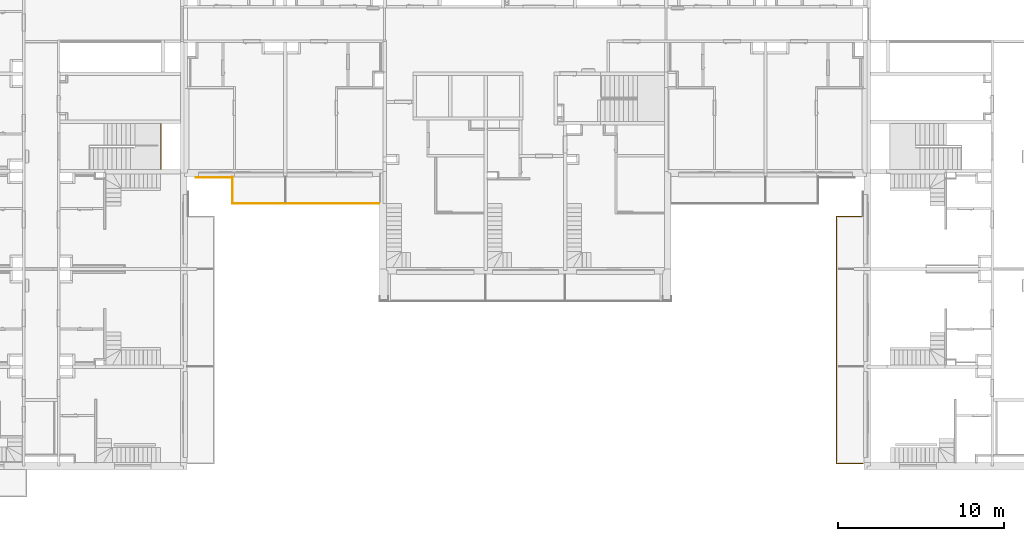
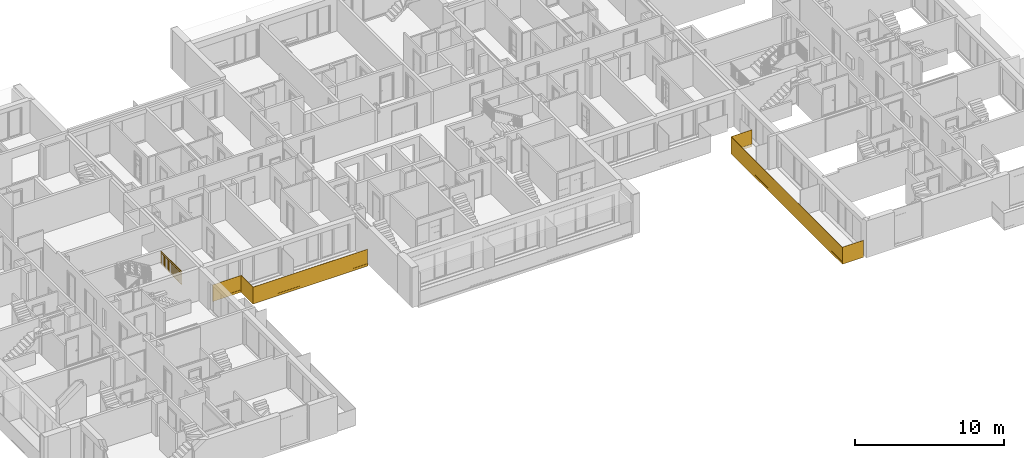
# One storey, part 6 of 61: 4 railings.
"""IFC2X3 building model written with IfcOpenShell, lengths in millimetres."""

from ifc_helpers import new_model, entity, si_unit, converted_unit, derived_unit, money_unit, direction, frame, origin_with_axes, place, context, subcontext, project, spatial, faceted_brep, material, material_list, type_object, element, save


model = new_model("IFC2X3")

# Units and contexts
model_context = context("Model", 3, precision=0.01, world=origin_with_axes(), true_north=direction((0.34421633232, 0.938890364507)))
body_context = subcontext(model_context, "Body", "Model", "MODEL_VIEW")
ifc_project = project(units=[si_unit("LENGTHUNIT", "METRE", prefix="MILLI"), si_unit("AREAUNIT", "SQUARE_METRE"), si_unit("VOLUMEUNIT", "CUBIC_METRE"), converted_unit("PLANEANGLEUNIT", "DEGREE", entity("IfcPlaneAngleMeasure", 0.0174532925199), si_unit("PLANEANGLEUNIT", "RADIAN"), dimensions=[0, 0, 0, 0, 0, 0, 0]), si_unit("SOLIDANGLEUNIT", "STERADIAN"), money_unit("USD"), converted_unit("TIMEUNIT", "Year", entity("IfcTimeMeasure", 31556926.0), si_unit("TIMEUNIT", "SECOND"), dimensions=[0, 0, 1, 0, 0, 0, 0]), si_unit("MASSUNIT", "GRAM", prefix="KILO"), si_unit("THERMODYNAMICTEMPERATUREUNIT", "DEGREE_CELSIUS"), si_unit("LUMINOUSINTENSITYUNIT", "LUMEN"), si_unit("ENERGYUNIT", "JOULE", prefix="MEGA"), derived_unit("THERMALCONDUCTANCEUNIT", [(si_unit("POWERUNIT", "WATT"), 1), (si_unit("LENGTHUNIT", "METRE"), -1), (si_unit("THERMODYNAMICTEMPERATUREUNIT", "KELVIN"), -1)]), derived_unit("SPECIFICHEATCAPACITYUNIT", [(si_unit("ENERGYUNIT", "JOULE"), 1), (si_unit("MASSUNIT", "GRAM", prefix="KILO"), -1), (si_unit("THERMODYNAMICTEMPERATUREUNIT", "KELVIN"), -1)]), derived_unit("MASSDENSITYUNIT", [(si_unit("MASSUNIT", "GRAM", prefix="KILO"), 1), (si_unit("VOLUMEUNIT", "CUBIC_METRE"), -1)])], contexts=[model_context])

# Site, building, storey
site_placement = place(None, origin_with_axes())
site = spatial("IfcSite", under=ifc_project, at=site_placement, Name="USTRONIE MORSKIE", CompositionType="ELEMENT")
building_placement = place(site_placement, origin_with_axes())
building = spatial("IfcBuilding", under=site, at=building_placement, Name="Budynek", CompositionType="ELEMENT")
storey_placement = place(building_placement, frame((0.0, 0.0, 13000.0), z_axis=(0.0, 0.0, 1.0), x_axis=(1.0, 0.0, 0.0)))
storey = spatial("IfcBuildingStorey", under=building, at=storey_placement, Name="PIĘTRO 4", CompositionType="ELEMENT", Elevation=13000.0)

# Railings
ifc_material_1 = material(Name="Szkło struktualne")
ifc_material_2 = material(Name="Profile aluminiowe")
ifc_material_list_1 = material_list([ifc_material_1, ifc_material_2])
railing_type = type_object("IfcRailingType", Name="Typ balustrady", PredefinedType="NOTDEFINED")
railing_1_placement = place(storey_placement, frame((370177.928052, 726591.199036, 0.0), z_axis=(0.0, 0.0, 1.0), x_axis=(-1.0, 0.0, 0.0)))
element("IfcRailing", 1, at=railing_1_placement, inside=storey, type_object=railing_type, material=ifc_material_list_1, Name="BL1", PredefinedType="NOTDEFINED", context=body_context, shape_type="Brep", body=[
    faceted_brep([(2259.98778246, 59.9999999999, -300.0), (80.0, 59.9999999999, -300.0), (80.0, 59.9999999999, 1070.0), (2259.98778246, 59.9999999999, 1070.0), (80.0, 40.0, -300.0), (2259.98778246, 40.0, -300.0), (80.0, 40.0, 1070.0), (2259.98778246, 40.0, 1070.0)], [[[0, 1, 2, 3]], [[4, 1, 0, 5]], [[6, 2, 1, 4]], [[3, 2, 6, 7]], [[0, 3, 7, 5]], [[6, 4, 5, 7]]]),
    faceted_brep([(80.0, 35.0, -305.0), (2259.98778246, 35.0, -305.0), (2259.98778246, 35.0, -105.0), (80.0, 35.0, -105.0), (80.0, 64.9999999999, -305.0), (2259.98778246, 64.9999999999, -305.0), (2259.98778246, 64.9999999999, -105.0), (2259.98778246, 59.9999999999, -105.0), (2259.98778246, 59.9999999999, -300.0), (2259.98778246, 40.0, -300.0), (2259.98778246, 40.0, -105.0), (80.0, 40.0, -105.0), (80.0, 59.9999999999, -300.0), (80.0, 59.9999999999, -105.0), (80.0, 64.9999999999, -105.0), (80.0, 40.0, -300.0)], [[[0, 1, 2, 3]], [[4, 5, 1, 0]], [[5, 6, 7, 8, 9, 10, 2, 1]], [[3, 2, 10, 11]], [[12, 13, 14, 4, 0, 3, 11, 15]], [[5, 4, 14, 6]], [[14, 13, 7, 6]], [[13, 12, 8, 7]], [[12, 15, 9, 8]], [[9, 15, 11, 10]]]),
])
ifc_material_list_2 = material_list([ifc_material_1, ifc_material_2, ifc_material_1, ifc_material_2])
railing_2_placement = place(storey_placement, frame((379016.201289, 725001.198359, 0.0), z_axis=(0.0, 0.0, 1.0), x_axis=(1.0, 0.0, 0.0)))
element("IfcRailing", 2, at=railing_2_placement, inside=storey, type_object=railing_type, material=ifc_material_list_2, Name="BL1", PredefinedType="NOTDEFINED", context=body_context, shape_type="Brep", body=[
    faceted_brep([(-29.9999996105, -59.9999997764, -300.00000039), (-29.9999996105, -59.9999997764, 1069.99999972), (-8898.26101931, -59.9999997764, 1069.99999972), (-8898.26101931, -59.9999997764, -300.00000039), (-29.9999996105, -40.0000002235, 1069.99999972), (-29.9999996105, -40.0000002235, -300.00000039), (-8878.26101976, -40.0000002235, 1069.99999972), (-8878.26101976, -40.0000002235, -300.00000039)], [[[0, 1, 2, 3]], [[4, 1, 0, 5]], [[2, 1, 4, 6]], [[3, 2, 6, 7]], [[5, 0, 3, 7]], [[6, 4, 5, 7]]]),
    faceted_brep([(-8888.26101984, -35.0, -105.0), (-30.0, -35.0, -105.0), (-30.0, -35.0, -305.0), (-8888.26101984, -35.0, -305.0), (-8888.26101984, -40.0, -105.0), (-30.0, -40.0, -105.0), (-30.0, -40.0, -300.0), (-30.0, -59.9999999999, -300.0), (-30.0, -59.9999999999, -105.0), (-30.0, -64.9999999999, -105.0), (-30.0, -64.9999999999, -305.0), (-8888.26101984, -64.9999999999, -305.0), (-8888.26101984, -64.9999999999, -105.0), (-8888.26101984, -59.9999999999, -105.0), (-8888.26101984, -59.9999999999, -300.0), (-8888.26101984, -40.0, -300.0)], [[[0, 1, 2, 3]], [[1, 0, 4, 5]], [[6, 7, 8, 9, 10, 2, 1, 5]], [[10, 11, 3, 2]], [[11, 12, 13, 14, 15, 4, 0, 3]], [[15, 6, 5, 4]], [[7, 6, 15, 14]], [[8, 7, 14, 13]], [[9, 8, 13, 12]], [[11, 10, 9, 12]]]),
    faceted_brep([(-8898.26101961, -60.0000001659, -300.00000039), (-8898.26101961, -60.0000001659, 1069.99999972), (-8898.26101961, 1570.00067773, 1069.99999972), (-8898.26101961, 1570.00067773, -300.00000039), (-8878.26102006, -40.000000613, 1069.99999972), (-8878.26102006, -40.000000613, -300.00000039), (-8878.26102006, 1570.00067773, 1069.99999972), (-8878.26102006, 1570.00067773, -300.00000039)], [[[0, 1, 2, 3]], [[4, 1, 0, 5]], [[2, 1, 4, 6]], [[3, 2, 6, 7]], [[5, 0, 3, 7]], [[6, 4, 5, 7]]]),
    faceted_brep([(-8873.26101984, 1570.00067759, -105.0), (-8873.26101984, -50.0, -105.0), (-8873.26101984, -50.0, -305.0), (-8873.26101984, 1570.00067759, -305.0), (-8878.26101984, 1570.00067759, -105.0), (-8878.26101984, -50.0, -105.0), (-8878.26101984, -50.0, -300.0), (-8898.26101984, -50.0, -300.0), (-8898.26101984, -50.0, -105.0), (-8903.26101984, -50.0, -105.0), (-8903.26101984, -50.0, -305.0), (-8903.26101984, 1570.00067759, -305.0), (-8903.26101984, 1570.00067759, -105.0), (-8898.26101984, 1570.00067759, -105.0), (-8898.26101984, 1570.00067759, -300.0), (-8878.26101984, 1570.00067759, -300.0)], [[[0, 1, 2, 3]], [[1, 0, 4, 5]], [[6, 7, 8, 9, 10, 2, 1, 5]], [[10, 11, 3, 2]], [[11, 12, 13, 14, 15, 4, 0, 3]], [[15, 6, 5, 4]], [[7, 6, 15, 14]], [[8, 7, 14, 13]], [[9, 8, 13, 12]], [[11, 10, 9, 12]]]),
])
ifc_material_list_3 = material_list([ifc_material_1, ifc_material_2, ifc_material_1, ifc_material_2, ifc_material_1, ifc_material_2])
railing_3_placement = place(storey_placement, frame((408267.914768, 724111.198359, 0.0), z_axis=(0.0, 0.0, 1.0), x_axis=(-1.0, 0.0, 0.0)))
element("IfcRailing", 3, at=railing_3_placement, inside=storey, type_object=railing_type, material=ifc_material_list_3, Name="BL1", PredefinedType="NOTDEFINED", context=body_context, shape_type="Brep", body=[
    faceted_brep([(29.9999996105, -40.0000002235, -300.00000039), (29.9999996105, -40.0000002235, 1069.99999972), (1639.99901128, -40.0000002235, 1069.99999972), (1639.99901128, -40.0000002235, -300.00000039), (29.9999996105, -59.9999997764, 1069.99999972), (29.9999996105, -59.9999997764, -300.00000039), (1659.99896906, -59.9999997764, 1069.99999972), (1659.99896906, -59.9999997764, -300.00000039)], [[[0, 1, 2, 3]], [[4, 1, 0, 5]], [[2, 1, 4, 6]], [[3, 2, 6, 7]], [[5, 0, 3, 7]], [[6, 4, 5, 7]]]),
    faceted_brep([(1649.99899054, -64.9999999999, -105.0), (30.0, -64.9999999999, -105.0), (30.0, -64.9999999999, -305.0), (1649.99899054, -64.9999999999, -305.0), (1649.99899054, -59.9999999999, -105.0), (30.0, -59.9999999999, -105.0), (30.0, -59.9999999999, -300.0), (30.0, -40.0, -300.0), (30.0, -40.0, -105.0), (30.0, -35.0, -105.0), (30.0, -35.0, -305.0), (1649.99899054, -35.0, -305.0), (1649.99899054, -35.0, -105.0), (1649.99899054, -40.0, -105.0), (1649.99899054, -40.0, -300.0), (1649.99899054, -59.9999999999, -300.0)], [[[0, 1, 2, 3]], [[1, 0, 4, 5]], [[6, 7, 8, 9, 10, 2, 1, 5]], [[10, 11, 3, 2]], [[11, 12, 13, 14, 15, 4, 0, 3]], [[15, 6, 5, 4]], [[7, 6, 15, 14]], [[8, 7, 14, 13]], [[9, 8, 13, 12]], [[11, 10, 9, 12]]]),
    faceted_brep([(1639.99901165, -40.000000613, -300.00000039), (1639.99901165, -40.000000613, 1069.99999972), (1640.03011585, 14849.9993229, 1069.99999972), (1640.03011585, 14849.9993229, -300.00000039), (1659.99896943, -60.0000001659, 1069.99999972), (1659.99896943, -60.0000001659, -300.00000039), (1660.03015719, 14869.9993224, 1069.99999972), (1660.03015719, 14869.9993224, -300.00000039)], [[[0, 1, 2, 3]], [[4, 1, 0, 5]], [[2, 1, 4, 6]], [[3, 2, 6, 7]], [[5, 0, 3, 7]], [[6, 4, 5, 7]]]),
    faceted_brep([(1665.03013652, 14859.9992911, -105.0), (1664.99899054, -50.000031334, -105.0), (1664.99899054, -50.000031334, -305.0), (1665.03013652, 14859.9992911, -305.0), (1660.03013652, 14859.9993015, -105.0), (1659.99899054, -50.0000208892, -105.0), (1659.99899054, -50.0000208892, -300.0), (1639.99899054, -49.9999791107, -300.0), (1639.99899054, -49.9999791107, -105.0), (1634.99899054, -49.9999686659, -105.0), (1634.99899054, -49.9999686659, -305.0), (1635.03013652, 14859.9993537, -305.0), (1635.03013652, 14859.9993537, -105.0), (1640.03013652, 14859.9993433, -105.0), (1640.03013652, 14859.9993433, -300.0), (1660.03013652, 14859.9993015, -300.0)], [[[0, 1, 2, 3]], [[1, 0, 4, 5]], [[6, 7, 8, 9, 10, 2, 1, 5]], [[10, 11, 3, 2]], [[11, 12, 13, 14, 15, 4, 0, 3]], [[15, 6, 5, 4]], [[7, 6, 15, 14]], [[8, 7, 14, 13]], [[9, 8, 13, 12]], [[11, 10, 9, 12]]]),
    faceted_brep([(1640.03011624, 14849.9993226, -300.00000039), (1640.03011624, 14849.9993226, 1069.99999972), (30.0628355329, 14849.9993226, 1069.99999972), (30.0628355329, 14849.9993226, -300.00000039), (1660.03015757, 14869.9993222, 1069.99999972), (1660.03015757, 14869.9993222, -300.00000039), (30.0628355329, 14869.9993222, 1069.99999972), (30.0628355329, 14869.9993222, -300.00000039)], [[[0, 1, 2, 3]], [[4, 1, 0, 5]], [[2, 1, 4, 6]], [[3, 2, 6, 7]], [[5, 0, 3, 7]], [[6, 4, 5, 7]]]),
    faceted_brep([(30.0628352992, 14874.9993224, -105.0), (1650.03013652, 14874.9993224, -105.0), (1650.03013652, 14874.9993224, -305.0), (30.0628352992, 14874.9993224, -305.0), (30.0628352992, 14869.9993224, -105.0), (1650.03013652, 14869.9993224, -105.0), (1650.03013652, 14849.9993224, -300.0), (1650.03013652, 14849.9993224, -105.0), (1650.03013652, 14844.9993224, -105.0), (1650.03013652, 14844.9993224, -305.0), (1650.03013652, 14869.9993224, -300.0), (30.0628352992, 14844.9993224, -305.0), (30.0628352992, 14844.9993224, -105.0), (30.0628352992, 14849.9993224, -105.0), (30.0628352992, 14849.9993224, -300.0), (30.0628352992, 14869.9993224, -300.0)], [[[0, 1, 2, 3]], [[1, 0, 4, 5]], [[6, 7, 8, 9, 2, 1, 5, 10]], [[9, 11, 3, 2]], [[11, 12, 13, 14, 15, 4, 0, 3]], [[15, 10, 5, 4]], [[7, 6, 14, 13]], [[8, 7, 13, 12]], [[11, 9, 8, 12]], [[6, 10, 15, 14]]]),
])
ifc_material_3 = material(Name="Stal konstrukcyjna")
ifc_material_4 = material(Name="Stal nierdzewna")
ifc_material_list_4 = material_list([ifc_material_3, ifc_material_3, ifc_material_4, ifc_material_4, ifc_material_4, ifc_material_3, ifc_material_3, ifc_material_3, ifc_material_3, ifc_material_3, ifc_material_3, ifc_material_3, ifc_material_3, ifc_material_3, ifc_material_3, ifc_material_3, ifc_material_3, ifc_material_3, ifc_material_3, ifc_material_3, ifc_material_3, ifc_material_3, ifc_material_3, ifc_material_3, ifc_material_3, ifc_material_3, ifc_material_3, ifc_material_3, ifc_material_3, ifc_material_3])
railing_4_placement = place(storey_placement, frame((365767.920919, 727001.199022, 1700.0), z_axis=(0.0, 0.0, 1.0), x_axis=(1.0, 0.0, 0.0)))
element("IfcRailing", 4, at=railing_4_placement, inside=storey, type_object=railing_type, material=ifc_material_list_4, Name="BL1", PredefinedType="NOTDEFINED", context=body_context, shape_type="Brep", body=[
    faceted_brep([(45.0, 9.99999999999, -150.0), (25.0, 9.99999999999, -150.0), (25.0, 9.99999999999, 750.0), (45.0, 9.99999999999, 750.0), (45.0, -9.99999999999, -150.0), (25.0, -9.99999999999, -150.0), (40.0, 5.0, -150.0), (30.0, 5.0, -150.0), (30.0, -5.0, -150.0), (40.0, -5.0, -150.0), (25.0, -9.99999999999, 750.0), (45.0, -9.99999999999, 750.0), (40.0, 5.0, 750.0), (40.0, -5.0, 750.0), (30.0, -5.0, 750.0), (30.0, 5.0, 750.0)], [[[0, 1, 2, 3]], [[0, 4, 5, 1], [6, 7, 8, 9]], [[1, 5, 10, 2]], [[3, 2, 10, 11], [12, 13, 14, 15]], [[4, 0, 3, 11]], [[5, 4, 11, 10]], [[7, 6, 12, 15]], [[8, 7, 15, 14]], [[9, 8, 14, 13]], [[6, 9, 13, 12]]]),
    faceted_brep([(45.0, 2810.0, -150.0), (25.0, 2810.0, -150.0), (25.0, 2810.0, 750.0), (45.0, 2810.0, 750.0), (45.0, 2790.0, -150.0), (25.0, 2790.0, -150.0), (40.0, 2805.0, -150.0), (30.0, 2805.0, -150.0), (30.0, 2795.0, -150.0), (40.0, 2795.0, -150.0), (25.0, 2790.0, 750.0), (45.0, 2790.0, 750.0), (40.0, 2805.0, 750.0), (40.0, 2795.0, 750.0), (30.0, 2795.0, 750.0), (30.0, 2805.0, 750.0)], [[[0, 1, 2, 3]], [[0, 4, 5, 1], [6, 7, 8, 9]], [[1, 5, 10, 2]], [[3, 2, 10, 11], [12, 13, 14, 15]], [[4, 0, 3, 11]], [[5, 4, 11, 10]], [[7, 6, 12, 15]], [[8, 7, 15, 14]], [[9, 8, 14, 13]], [[6, 9, 13, 12]]]),
    faceted_brep([(60.0, 0.0, 900.0), (60.0, 0.0, 875.0), (60.0, 2800.0, 875.0), (60.0, 2800.0, 900.0), (10.0, 0.0, 900.0), (10.0, 0.0, 875.0), (25.0, 0.0, 875.0), (25.0, 0.0, 880.0), (45.0, 0.0, 880.0), (45.0, 0.0, 875.0), (45.0, 2800.0, 875.0), (45.0, 2800.0, 880.0), (25.0, 2800.0, 880.0), (25.0, 2800.0, 875.0), (10.0, 2800.0, 875.0), (10.0, 2800.0, 900.0)], [[[0, 1, 2, 3]], [[0, 4, 5, 6, 7, 8, 9, 1]], [[1, 9, 10, 2]], [[3, 2, 10, 11, 12, 13, 14, 15]], [[4, 0, 3, 15]], [[5, 4, 15, 14]], [[6, 5, 14, 13]], [[7, 6, 13, 12]], [[8, 7, 12, 11]], [[9, 8, 11, 10]]]),
    faceted_brep([(45.0, 0.0, 875.0), (25.0, 0.0, 875.0), (25.0, 2800.0, 875.0), (45.0, 2800.0, 875.0), (45.0, 0.0, 880.0), (25.0, 0.0, 880.0), (25.0, 2800.0, 880.0), (45.0, 2800.0, 880.0)], [[[0, 1, 2, 3]], [[0, 4, 5, 1]], [[1, 5, 6, 2]], [[3, 2, 6, 7]], [[4, 0, 3, 7]], [[5, 4, 7, 6]]]),
    faceted_brep([(45.0, 52.5, 755.0), (25.0, 52.5, 755.0), (25.0, 52.5, 875.0), (45.0, 52.5, 875.0), (45.0, 47.5, 755.0), (25.0, 47.5, 755.0), (25.0, 47.5, 875.0), (45.0, 47.5, 875.0)], [[[0, 1, 2, 3]], [[0, 4, 5, 1]], [[1, 5, 6, 2]], [[3, 2, 6, 7]], [[4, 0, 3, 7]], [[5, 4, 7, 6]]]),
    faceted_brep([(45.0, 2752.5, 755.0), (25.0, 2752.5, 755.0), (25.0, 2752.5, 875.0), (45.0, 2752.5, 875.0), (45.0, 2747.5, 755.0), (25.0, 2747.5, 755.0), (25.0, 2747.5, 875.0), (45.0, 2747.5, 875.0)], [[[0, 1, 2, 3]], [[0, 4, 5, 1]], [[1, 5, 6, 2]], [[3, 2, 6, 7]], [[4, 0, 3, 7]], [[5, 4, 7, 6]]]),
    faceted_brep([(55.0, 0.0, 750.0), (55.0, 0.0, 745.0), (55.0, 2800.0, 745.0), (55.0, 2800.0, 750.0), (15.0, 0.0, 750.0), (15.0, 0.0, 745.0), (15.0, 2800.0, 745.0), (15.0, 2800.0, 750.0)], [[[0, 1, 2, 3]], [[0, 4, 5, 1]], [[1, 5, 6, 2]], [[3, 2, 6, 7]], [[4, 0, 3, 7]], [[5, 4, 7, 6]]]),
    faceted_brep([(55.0, 0.0, -157.5), (55.0, 0.0, -162.5), (55.0, 2800.0, -162.5), (55.0, 2800.0, -157.5), (15.0, 0.0, -157.5), (15.0, 0.0, -162.5), (15.0, 2800.0, -162.5), (15.0, 2800.0, -157.5)], [[[0, 1, 2, 3]], [[0, 4, 5, 1]], [[1, 5, 6, 2]], [[3, 2, 6, 7]], [[4, 0, 3, 7]], [[5, 4, 7, 6]]]),
    faceted_brep([(47.5, 111.25, -150.0), (22.5, 111.25, -150.0), (22.5, 111.25, 740.0), (47.5, 111.25, 740.0), (47.5, 101.25, -150.0), (22.5, 101.25, -150.0), (22.5, 101.25, 740.0), (47.5, 101.25, 740.0)], [[[0, 1, 2, 3]], [[0, 4, 5, 1]], [[1, 5, 6, 2]], [[3, 2, 6, 7]], [[4, 0, 3, 7]], [[5, 4, 7, 6]]]),
    faceted_brep([(47.5, 217.5, -150.0), (22.5, 217.5, -150.0), (22.5, 217.5, 740.0), (47.5, 217.5, 740.0), (47.5, 207.5, -150.0), (22.5, 207.5, -150.0), (22.5, 207.5, 740.0), (47.5, 207.5, 740.0)], [[[0, 1, 2, 3]], [[0, 4, 5, 1]], [[1, 5, 6, 2]], [[3, 2, 6, 7]], [[4, 0, 3, 7]], [[5, 4, 7, 6]]]),
    faceted_brep([(47.5, 323.75, -150.0), (22.5, 323.75, -150.0), (22.5, 323.75, 740.0), (47.5, 323.75, 740.0), (47.5, 313.75, -150.0), (22.5, 313.75, -150.0), (22.5, 313.75, 740.0), (47.5, 313.75, 740.0)], [[[0, 1, 2, 3]], [[0, 4, 5, 1]], [[1, 5, 6, 2]], [[3, 2, 6, 7]], [[4, 0, 3, 7]], [[5, 4, 7, 6]]]),
    faceted_brep([(50.0, 427.5, -150.0), (20.0, 427.5, -150.0), (20.0, 427.5, 740.0), (50.0, 427.5, 740.0), (50.0, 422.5, -150.0), (20.0, 422.5, -150.0), (20.0, 422.5, 740.0), (50.0, 422.5, 740.0)], [[[0, 1, 2, 3]], [[0, 4, 5, 1]], [[1, 5, 6, 2]], [[3, 2, 6, 7]], [[4, 0, 3, 7]], [[5, 4, 7, 6]]]),
    faceted_brep([(47.5, 538.333333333, -150.0), (22.5, 538.333333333, -150.0), (22.5, 538.333333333, 740.0), (47.5, 538.333333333, 740.0), (47.5, 528.333333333, -150.0), (22.5, 528.333333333, -150.0), (22.5, 528.333333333, 740.0), (47.5, 528.333333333, 740.0)], [[[0, 1, 2, 3]], [[0, 4, 5, 1]], [[1, 5, 6, 2]], [[3, 2, 6, 7]], [[4, 0, 3, 7]], [[5, 4, 7, 6]]]),
    faceted_brep([(47.5, 646.666666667, -150.0), (22.5, 646.666666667, -150.0), (22.5, 646.666666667, 740.0), (47.5, 646.666666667, 740.0), (47.5, 636.666666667, -150.0), (22.5, 636.666666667, -150.0), (22.5, 636.666666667, 740.0), (47.5, 636.666666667, 740.0)], [[[0, 1, 2, 3]], [[0, 4, 5, 1]], [[1, 5, 6, 2]], [[3, 2, 6, 7]], [[4, 0, 3, 7]], [[5, 4, 7, 6]]]),
    faceted_brep([(47.5, 755.0, -150.0), (22.5, 755.0, -150.0), (22.5, 755.0, 740.0), (47.5, 755.0, 740.0), (47.5, 745.0, -150.0), (22.5, 745.0, -150.0), (22.5, 745.0, 740.0), (47.5, 745.0, 740.0)], [[[0, 1, 2, 3]], [[0, 4, 5, 1]], [[1, 5, 6, 2]], [[3, 2, 6, 7]], [[4, 0, 3, 7]], [[5, 4, 7, 6]]]),
    faceted_brep([(47.5, 863.333333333, -150.0), (22.5, 863.333333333, -150.0), (22.5, 863.333333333, 740.0), (47.5, 863.333333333, 740.0), (47.5, 853.333333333, -150.0), (22.5, 853.333333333, -150.0), (22.5, 853.333333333, 740.0), (47.5, 853.333333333, 740.0)], [[[0, 1, 2, 3]], [[0, 4, 5, 1]], [[1, 5, 6, 2]], [[3, 2, 6, 7]], [[4, 0, 3, 7]], [[5, 4, 7, 6]]]),
    faceted_brep([(47.5, 971.666666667, -150.0), (22.5, 971.666666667, -150.0), (22.5, 971.666666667, 740.0), (47.5, 971.666666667, 740.0), (47.5, 961.666666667, -150.0), (22.5, 961.666666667, -150.0), (22.5, 961.666666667, 740.0), (47.5, 961.666666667, 740.0)], [[[0, 1, 2, 3]], [[0, 4, 5, 1]], [[1, 5, 6, 2]], [[3, 2, 6, 7]], [[4, 0, 3, 7]], [[5, 4, 7, 6]]]),
    faceted_brep([(50.0, 1077.5, -150.0), (20.0, 1077.5, -150.0), (20.0, 1077.5, 740.0), (50.0, 1077.5, 740.0), (50.0, 1072.5, -150.0), (20.0, 1072.5, -150.0), (20.0, 1072.5, 740.0), (50.0, 1072.5, 740.0)], [[[0, 1, 2, 3]], [[0, 4, 5, 1]], [[1, 5, 6, 2]], [[3, 2, 6, 7]], [[4, 0, 3, 7]], [[5, 4, 7, 6]]]),
    faceted_brep([(47.5, 1188.33333333, -150.0), (22.5, 1188.33333333, -150.0), (22.5, 1188.33333333, 740.0), (47.5, 1188.33333333, 740.0), (47.5, 1178.33333333, -150.0), (22.5, 1178.33333333, -150.0), (22.5, 1178.33333333, 740.0), (47.5, 1178.33333333, 740.0)], [[[0, 1, 2, 3]], [[0, 4, 5, 1]], [[1, 5, 6, 2]], [[3, 2, 6, 7]], [[4, 0, 3, 7]], [[5, 4, 7, 6]]]),
    faceted_brep([(47.5, 1296.66666667, -150.0), (22.5, 1296.66666667, -150.0), (22.5, 1296.66666667, 740.0), (47.5, 1296.66666667, 740.0), (47.5, 1286.66666667, -150.0), (22.5, 1286.66666667, -150.0), (22.5, 1286.66666667, 740.0), (47.5, 1286.66666667, 740.0)], [[[0, 1, 2, 3]], [[0, 4, 5, 1]], [[1, 5, 6, 2]], [[3, 2, 6, 7]], [[4, 0, 3, 7]], [[5, 4, 7, 6]]]),
    faceted_brep([(47.5, 1405.0, -150.0), (22.5, 1405.0, -150.0), (22.5, 1405.0, 740.0), (47.5, 1405.0, 740.0), (47.5, 1395.0, -150.0), (22.5, 1395.0, -150.0), (22.5, 1395.0, 740.0), (47.5, 1395.0, 740.0)], [[[0, 1, 2, 3]], [[0, 4, 5, 1]], [[1, 5, 6, 2]], [[3, 2, 6, 7]], [[4, 0, 3, 7]], [[5, 4, 7, 6]]]),
    faceted_brep([(47.5, 1513.33333333, -150.0), (22.5, 1513.33333333, -150.0), (22.5, 1513.33333333, 740.0), (47.5, 1513.33333333, 740.0), (47.5, 1503.33333333, -150.0), (22.5, 1503.33333333, -150.0), (22.5, 1503.33333333, 740.0), (47.5, 1503.33333333, 740.0)], [[[0, 1, 2, 3]], [[0, 4, 5, 1]], [[1, 5, 6, 2]], [[3, 2, 6, 7]], [[4, 0, 3, 7]], [[5, 4, 7, 6]]]),
    faceted_brep([(47.5, 1621.66666667, -150.0), (22.5, 1621.66666667, -150.0), (22.5, 1621.66666667, 740.0), (47.5, 1621.66666667, 740.0), (47.5, 1611.66666667, -150.0), (22.5, 1611.66666667, -150.0), (22.5, 1611.66666667, 740.0), (47.5, 1611.66666667, 740.0)], [[[0, 1, 2, 3]], [[0, 4, 5, 1]], [[1, 5, 6, 2]], [[3, 2, 6, 7]], [[4, 0, 3, 7]], [[5, 4, 7, 6]]]),
    faceted_brep([(50.0, 1727.5, -150.0), (20.0, 1727.5, -150.0), (20.0, 1727.5, 740.0), (50.0, 1727.5, 740.0), (50.0, 1722.5, -150.0), (20.0, 1722.5, -150.0), (20.0, 1722.5, 740.0), (50.0, 1722.5, 740.0)], [[[0, 1, 2, 3]], [[0, 4, 5, 1]], [[1, 5, 6, 2]], [[3, 2, 6, 7]], [[4, 0, 3, 7]], [[5, 4, 7, 6]]]),
    faceted_brep([(47.5, 1838.33333333, -150.0), (22.5, 1838.33333333, -150.0), (22.5, 1838.33333333, 740.0), (47.5, 1838.33333333, 740.0), (47.5, 1828.33333333, -150.0), (22.5, 1828.33333333, -150.0), (22.5, 1828.33333333, 740.0), (47.5, 1828.33333333, 740.0)], [[[0, 1, 2, 3]], [[0, 4, 5, 1]], [[1, 5, 6, 2]], [[3, 2, 6, 7]], [[4, 0, 3, 7]], [[5, 4, 7, 6]]]),
    faceted_brep([(47.5, 1946.66666667, -150.0), (22.5, 1946.66666667, -150.0), (22.5, 1946.66666667, 740.0), (47.5, 1946.66666667, 740.0), (47.5, 1936.66666667, -150.0), (22.5, 1936.66666667, -150.0), (22.5, 1936.66666667, 740.0), (47.5, 1936.66666667, 740.0)], [[[0, 1, 2, 3]], [[0, 4, 5, 1]], [[1, 5, 6, 2]], [[3, 2, 6, 7]], [[4, 0, 3, 7]], [[5, 4, 7, 6]]]),
    faceted_brep([(47.5, 2055.0, -150.0), (22.5, 2055.0, -150.0), (22.5, 2055.0, 740.0), (47.5, 2055.0, 740.0), (47.5, 2045.0, -150.0), (22.5, 2045.0, -150.0), (22.5, 2045.0, 740.0), (47.5, 2045.0, 740.0)], [[[0, 1, 2, 3]], [[0, 4, 5, 1]], [[1, 5, 6, 2]], [[3, 2, 6, 7]], [[4, 0, 3, 7]], [[5, 4, 7, 6]]]),
    faceted_brep([(47.5, 2163.33333333, -150.0), (22.5, 2163.33333333, -150.0), (22.5, 2163.33333333, 740.0), (47.5, 2163.33333333, 740.0), (47.5, 2153.33333333, -150.0), (22.5, 2153.33333333, -150.0), (22.5, 2153.33333333, 740.0), (47.5, 2153.33333333, 740.0)], [[[0, 1, 2, 3]], [[0, 4, 5, 1]], [[1, 5, 6, 2]], [[3, 2, 6, 7]], [[4, 0, 3, 7]], [[5, 4, 7, 6]]]),
    faceted_brep([(47.5, 2271.66666667, -150.0), (22.5, 2271.66666667, -150.0), (22.5, 2271.66666667, 740.0), (47.5, 2271.66666667, 740.0), (47.5, 2261.66666667, -150.0), (22.5, 2261.66666667, -150.0), (22.5, 2261.66666667, 740.0), (47.5, 2261.66666667, 740.0)], [[[0, 1, 2, 3]], [[0, 4, 5, 1]], [[1, 5, 6, 2]], [[3, 2, 6, 7]], [[4, 0, 3, 7]], [[5, 4, 7, 6]]]),
    faceted_brep([(50.0, 2377.5, -150.0), (20.0, 2377.5, -150.0), (20.0, 2377.5, 740.0), (50.0, 2377.5, 740.0), (50.0, 2372.5, -150.0), (20.0, 2372.5, -150.0), (20.0, 2372.5, 740.0), (50.0, 2372.5, 740.0)], [[[0, 1, 2, 3]], [[0, 4, 5, 1]], [[1, 5, 6, 2]], [[3, 2, 6, 7]], [[4, 0, 3, 7]], [[5, 4, 7, 6]]]),
    faceted_brep([(47.5, 2486.25, -150.0), (22.5, 2486.25, -150.0), (22.5, 2486.25, 740.0), (47.5, 2486.25, 740.0), (47.5, 2476.25, -150.0), (22.5, 2476.25, -150.0), (22.5, 2476.25, 740.0), (47.5, 2476.25, 740.0)], [[[0, 1, 2, 3]], [[0, 4, 5, 1]], [[1, 5, 6, 2]], [[3, 2, 6, 7]], [[4, 0, 3, 7]], [[5, 4, 7, 6]]]),
    faceted_brep([(47.5, 2592.5, -150.0), (22.5, 2592.5, -150.0), (22.5, 2592.5, 740.0), (47.5, 2592.5, 740.0), (47.5, 2582.5, -150.0), (22.5, 2582.5, -150.0), (22.5, 2582.5, 740.0), (47.5, 2582.5, 740.0)], [[[0, 1, 2, 3]], [[0, 4, 5, 1]], [[1, 5, 6, 2]], [[3, 2, 6, 7]], [[4, 0, 3, 7]], [[5, 4, 7, 6]]]),
    faceted_brep([(47.5, 2698.75, -150.0), (22.5, 2698.75, -150.0), (22.5, 2698.75, 740.0), (47.5, 2698.75, 740.0), (47.5, 2688.75, -150.0), (22.5, 2688.75, -150.0), (22.5, 2688.75, 740.0), (47.5, 2688.75, 740.0)], [[[0, 1, 2, 3]], [[0, 4, 5, 1]], [[1, 5, 6, 2]], [[3, 2, 6, 7]], [[4, 0, 3, 7]], [[5, 4, 7, 6]]]),
])

save(model, "model.ifc")
